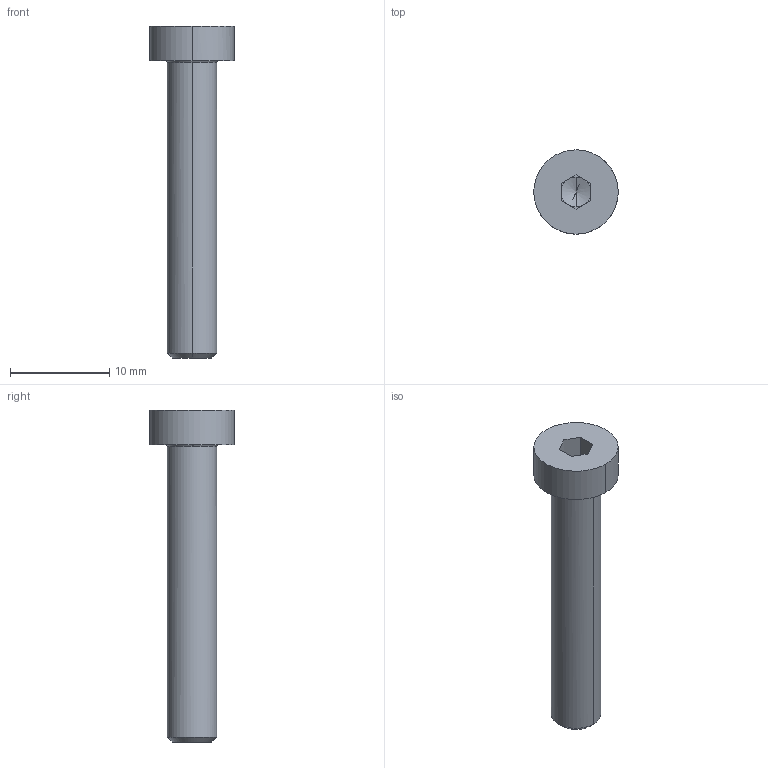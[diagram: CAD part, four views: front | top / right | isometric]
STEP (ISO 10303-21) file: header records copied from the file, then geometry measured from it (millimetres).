
FILE_DESCRIPTION(/* description */ (''),/* implementation_level */ '2;1');
FILE_NAME(/* name */ '8.x-drive#8.5#CBSST5-30',/* time_stamp */ '2014-12-01T20:18:14+01:00',/* author */ (''),/* organization */ (''),/* preprocessor_version */ 'ST-DEVELOPER v14',/* originating_system */ '',/* authorisation */ '');
FILE_SCHEMA (('AUTOMOTIVE_DESIGN'));
Length unit declared in the file: millimetre
Products named in the file (1): Document
Bounding box: 8.49 x 8.5 x 33.5 mm (x, y, z)
Volume: 766 mm3; surface area: 701.1 mm2
Topology: 1 solids, 1 shells, 25 faces, 59 edges, 36 vertices
Faces by surface type: plane 15, bspline 10
Entity records: 1550 total; most frequent: CARTESIAN_POINT 774, B_SPLINE_CURVE_WITH_KNOTS 129, ORIENTED_EDGE 114, PCURVE 114, DEFINITIONAL_REPRESENTATION 114, SURFACE_CURVE 57, EDGE_CURVE 57, VERTEX_POINT 36
